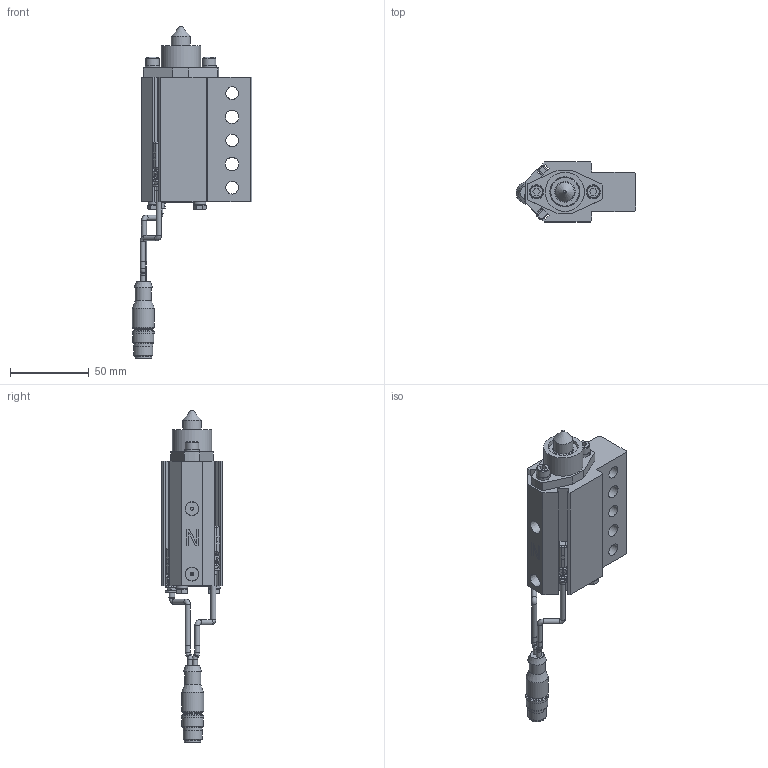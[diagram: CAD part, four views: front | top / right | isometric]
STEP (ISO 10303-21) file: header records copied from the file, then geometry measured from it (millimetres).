
FILE_DESCRIPTION(/* description */ (''),/* implementation_level */ '2;1');
FILE_NAME(/* name */ 'C:\TEMP\RMP1200BNL3.stp',/* time_stamp */ '2018-08-29T09:01:10-04:00',/* author */ ('KLabrecque'),/* organization */ (''),/* preprocessor_version */ 'ST-DEVELOPER v17',/* originating_system */ 'Autodesk Inventor 2018',/* authorisation */ '');
FILE_SCHEMA (('AUTOMOTIVE_DESIGN { 1 0 10303 214 3 1 1 }'));
Length unit declared in the file: millimetre
Products named in the file (13): RMP1200BNL3; NL5; M5X0.8-16 SHCS; RMPE03; RMPE01-PORT; RMPE02; RMPE05-PIN DIA; Micro L0 SWITCH ASSY; Micro_BIM-UNT-Cable-25 STK; Micro_BIM-UNT-Cable2; MPS_CONNECTOR; M4X0.7-6 HEX; NL4
Assembly tree (16 placements, depth 3):
  RMP1200BNL3
    NL5  x2
    M5X0.8-16 SHCS  x2
    RMPE03
    RMPE01-PORT
    RMPE02
    RMPE05-PIN DIA
    Micro L0 SWITCH ASSY
      Micro_BIM-UNT-Cable-25 STK
      Micro_BIM-UNT-Cable2
      MPS_CONNECTOR
    M4X0.7-6 HEX  x2
    NL4  x2
Bounding box: 75.9 x 38.1 x 210.54 mm (x, y, z)
Volume: 148637.6 mm3; surface area: 51761.6 mm2
Topology: 15 solids, 15 shells, 431 faces, 1108 edges, 735 vertices
Faces by surface type: plane 234, cylinder 117, cone 51, bspline 16, torus 12, sphere 1
Full cylindrical faces by diameter (mm): 1.9 x2, 2 x2, 2.6 x2, 3.175 x4, 3.2 x6, 3.242 x2, 4 x4, 4.134 x2, 4.4 x2, 5 x4, 5.4 x2, 5.5 x2, 6.3 x2, 6.647 x2, 7.6 x2, 8 x6, 8.5 x4, 9 x2, 9.6 x1, 10.2 x1, 10.49 x1, 11.989 x2, 12 x1, 12.497 x1, 13.005 x1, 13.487 x1, 14 x1, 14.199 x1, 15 x1, 16 x1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
Entity records: 13947 total; most frequent: CARTESIAN_POINT 3303, DIRECTION 2165, ORIENTED_EDGE 2036, EDGE_CURVE 1018, AXIS2_PLACEMENT_3D 800, VERTEX_POINT 684, LINE 565, VECTOR 565
